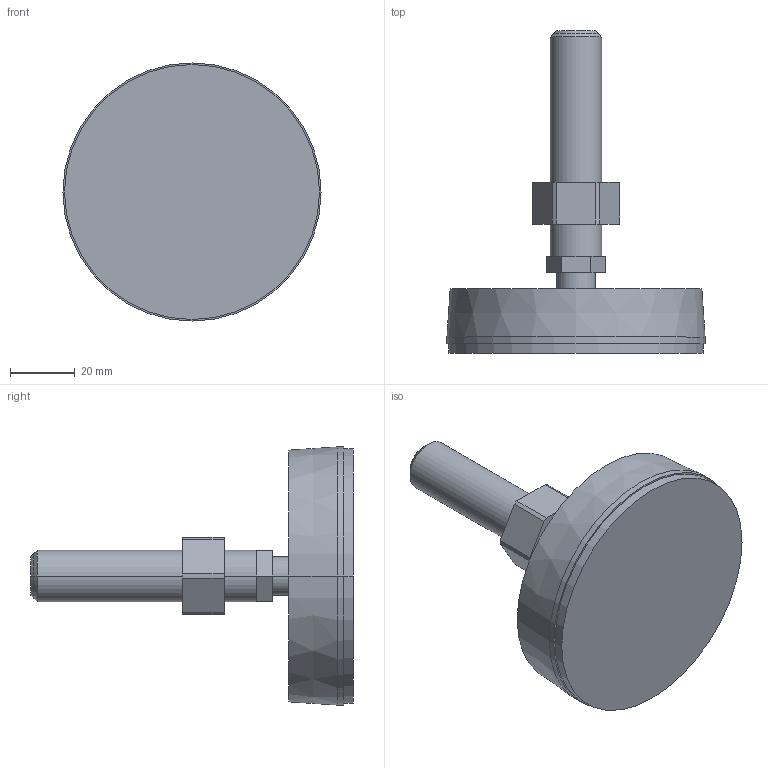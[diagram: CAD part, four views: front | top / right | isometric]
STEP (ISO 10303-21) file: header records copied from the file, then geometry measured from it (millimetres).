
FILE_DESCRIPTION((''),'2;1');
FILE_NAME('SUP08016','2002-12-27T',('Lipro doo'),('Lipro d.o.o.'),'PRO/ENGINEER BY PARAMETRIC TECHNOLOGY CORPORATION, 2001150','PRO/ENGINEER BY PARAMETRIC TECHNOLOGY CORPORATION, 2001150','');
FILE_SCHEMA(('CONFIG_CONTROL_DESIGN'));
Length unit declared in the file: millimetre
Products named in the file (1): SUP08016
Bounding box: 80 x 100 x 80 mm (x, y, z)
Volume: 117796.6 mm3; surface area: 22959.9 mm2
Topology: 1 solids, 2 shells, 47 faces, 110 edges, 70 vertices
Faces by surface type: plane 25, cylinder 18, cone 4
Entity records: 1394 total; most frequent: DIRECTION 252, CARTESIAN_POINT 228, ORIENTED_EDGE 216, EDGE_CURVE 110, AXIS2_PLACEMENT_3D 94, VERTEX_POINT 70, VECTOR 64, LINE 64
